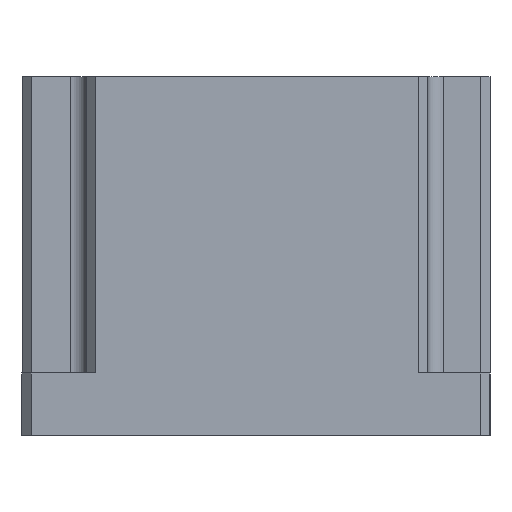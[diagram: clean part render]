
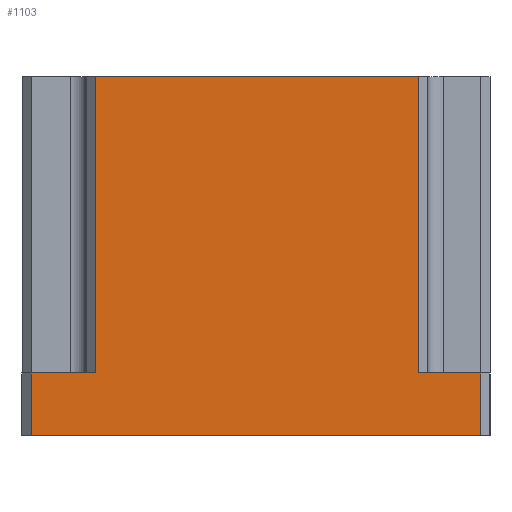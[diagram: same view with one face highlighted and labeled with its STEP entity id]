
A CAD part, left-side view. The second image highlights one B-rep face of the part: STEP entity #1103.
In plain terms, the highlighted planar face has unit normal (-1, 0, 0).
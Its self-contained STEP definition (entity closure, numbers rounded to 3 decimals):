
#1072=AXIS2_PLACEMENT_3D('Plane Axis2P3D',#1069,#1070,#1071) ;
#758=CARTESIAN_POINT('Line Origine',(0.,-147.,57.5)) ;
#762=CARTESIAN_POINT('Vertex',(0.,-147.,0.)) ;
#764=CARTESIAN_POINT('Vertex',(0.,-147.,20.)) ;
#804=CARTESIAN_POINT('Vertex',(0.,-3.,0.)) ;
#822=CARTESIAN_POINT('Line Origine',(0.,-75.,0.)) ;
#863=CARTESIAN_POINT('Vertex',(0.,-3.,20.)) ;
#873=CARTESIAN_POINT('Line Origine',(0.,-3.,57.5)) ;
#952=CARTESIAN_POINT('Line Origine',(0.,-10.334,20.)) ;
#956=CARTESIAN_POINT('Vertex',(0.,-23.669,20.)) ;
#1019=CARTESIAN_POINT('Line Origine',(0.,-23.669,57.5)) ;
#1023=CARTESIAN_POINT('Vertex',(0.,-23.669,115.)) ;
#1069=CARTESIAN_POINT('Axis2P3D Location',(0.,0.,0.)) ;
#1074=CARTESIAN_POINT('Line Origine',(0.,-75.334,115.)) ;
#1078=CARTESIAN_POINT('Vertex',(0.,-127.,115.)) ;
#1081=CARTESIAN_POINT('Line Origine',(0.,-137.,20.)) ;
#1085=CARTESIAN_POINT('Vertex',(0.,-127.,20.)) ;
#1088=CARTESIAN_POINT('Line Origine',(0.,-127.,67.5)) ;
#759=DIRECTION('Vector Direction',(0.,0.,1.)) ;
#823=DIRECTION('Vector Direction',(0.,-1.,0.)) ;
#874=DIRECTION('Vector Direction',(0.,0.,1.)) ;
#953=DIRECTION('Vector Direction',(0.,1.,0.)) ;
#1020=DIRECTION('Vector Direction',(0.,0.,-1.)) ;
#1070=DIRECTION('Axis2P3D Direction',(-1.,0.,0.)) ;
#1071=DIRECTION('Axis2P3D XDirection',(0.,-1.,0.)) ;
#1075=DIRECTION('Vector Direction',(0.,-1.,0.)) ;
#1082=DIRECTION('Vector Direction',(0.,-1.,0.)) ;
#1089=DIRECTION('Vector Direction',(0.,0.,1.)) ;
#760=VECTOR('Line Direction',#759,1.) ;
#824=VECTOR('Line Direction',#823,1.) ;
#875=VECTOR('Line Direction',#874,1.) ;
#954=VECTOR('Line Direction',#953,1.) ;
#1021=VECTOR('Line Direction',#1020,1.) ;
#1076=VECTOR('Line Direction',#1075,1.) ;
#1083=VECTOR('Line Direction',#1082,1.) ;
#1090=VECTOR('Line Direction',#1089,1.) ;
#1094=ORIENTED_EDGE('',*,*,#1080,.F.) ;
#1095=ORIENTED_EDGE('',*,*,#1025,.T.) ;
#1096=ORIENTED_EDGE('',*,*,#958,.F.) ;
#1097=ORIENTED_EDGE('',*,*,#877,.F.) ;
#1098=ORIENTED_EDGE('',*,*,#826,.T.) ;
#1099=ORIENTED_EDGE('',*,*,#766,.T.) ;
#1100=ORIENTED_EDGE('',*,*,#1087,.F.) ;
#1101=ORIENTED_EDGE('',*,*,#1092,.T.) ;
#1103=ADVANCED_FACE('\X2\96F64EF651E04F554F53\X0\',(#1102),#1073,.T.) ;
#766=EDGE_CURVE('',#763,#765,#761,.T.) ;
#826=EDGE_CURVE('',#805,#763,#825,.T.) ;
#877=EDGE_CURVE('',#805,#864,#876,.T.) ;
#958=EDGE_CURVE('',#864,#957,#955,.F.) ;
#1025=EDGE_CURVE('',#1024,#957,#1022,.T.) ;
#1080=EDGE_CURVE('',#1024,#1079,#1077,.T.) ;
#1087=EDGE_CURVE('',#1086,#765,#1084,.T.) ;
#1092=EDGE_CURVE('',#1086,#1079,#1091,.T.) ;
#1093=EDGE_LOOP('',(#1094,#1095,#1096,#1097,#1098,#1099,#1100,#1101)) ;
#1102=FACE_OUTER_BOUND('',#1093,.T.) ;
#761=LINE('Line',#758,#760) ;
#825=LINE('Line',#822,#824) ;
#876=LINE('Line',#873,#875) ;
#955=LINE('Line',#952,#954) ;
#1022=LINE('Line',#1019,#1021) ;
#1077=LINE('Line',#1074,#1076) ;
#1084=LINE('Line',#1081,#1083) ;
#1091=LINE('Line',#1088,#1090) ;
#1073=PLANE('',#1072) ;
#763=VERTEX_POINT('',#762) ;
#765=VERTEX_POINT('',#764) ;
#805=VERTEX_POINT('',#804) ;
#864=VERTEX_POINT('',#863) ;
#957=VERTEX_POINT('',#956) ;
#1024=VERTEX_POINT('',#1023) ;
#1079=VERTEX_POINT('',#1078) ;
#1086=VERTEX_POINT('',#1085) ;
